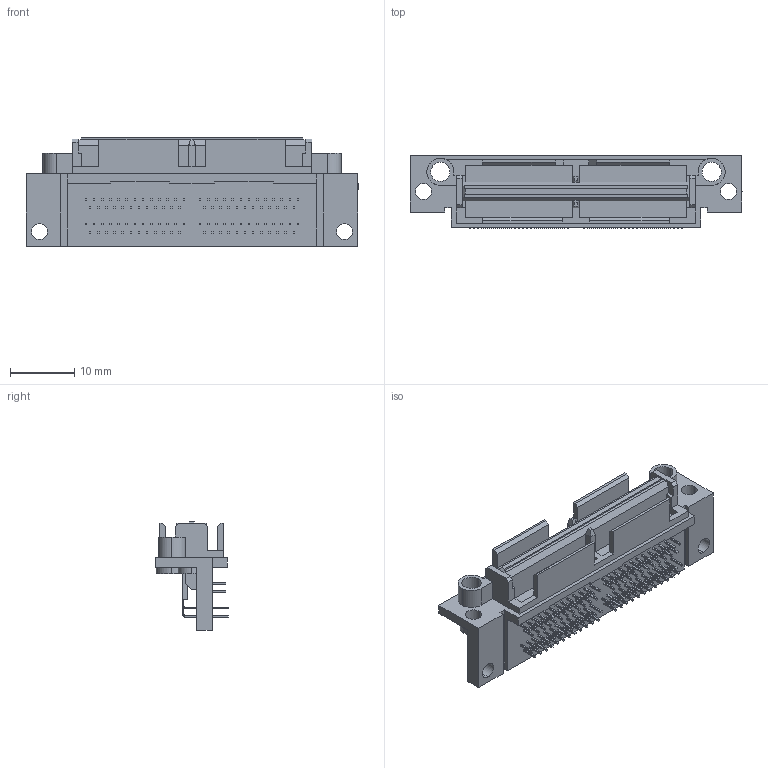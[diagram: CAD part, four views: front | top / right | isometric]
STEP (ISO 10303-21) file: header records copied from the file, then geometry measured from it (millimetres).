
FILE_DESCRIPTION (( 'STEP AP203' ), '1' );
FILE_NAME ('30001-100T-FC RA PLUG STEP R11K ALL.STEP', '2016-10-21T05:34:51', ( '' ), ( '' ), 'SwSTEP 2.0', 'SolidWorks 2014', '' );
FILE_SCHEMA (( 'CONFIG_CONTROL_DESIGN' ));
Length unit declared in the file: millimetre
Products named in the file (2): 30001-100T-FC RA PLUG STEP  R11K ALL
Bounding box: 51.7 x 11.26 x 16.9 mm (x, y, z)
Volume: 3017.2 mm3; surface area: 4508.1 mm2
Topology: 1 solids, 1 shells, 1055 faces, 2990 edges, 1988 vertices
Faces by surface type: plane 925, cylinder 130
Entity records: 34101 total; most frequent: CARTESIAN_POINT 6035, ORIENTED_EDGE 5980, DIRECTION 5370, EDGE_CURVE 2990, VECTOR 2724, LINE 2724, VERTEX_POINT 1988, AXIS2_PLACEMENT_3D 1323
